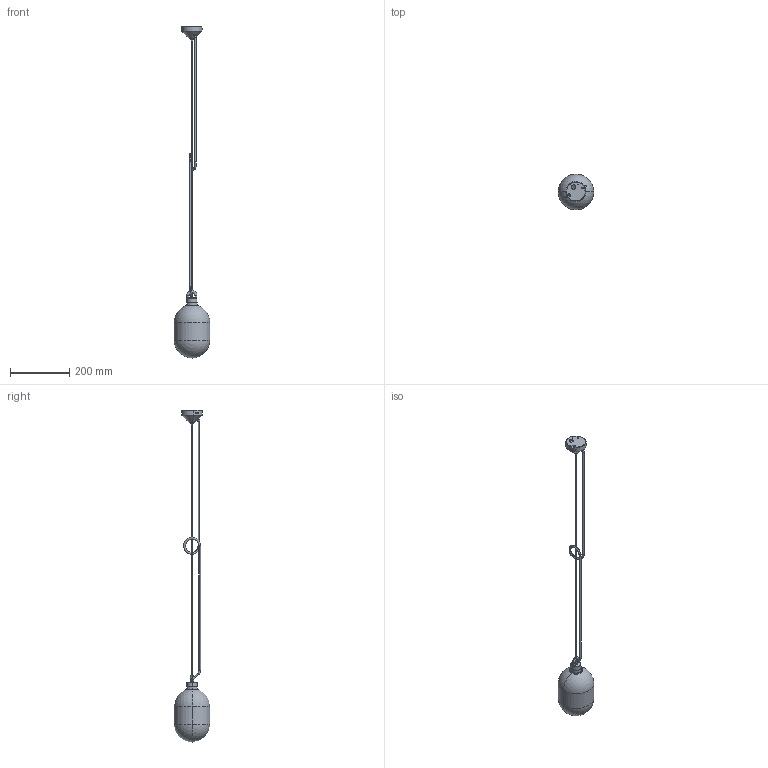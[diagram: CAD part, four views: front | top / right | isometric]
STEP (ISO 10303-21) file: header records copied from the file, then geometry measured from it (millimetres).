
FILE_DESCRIPTION (( 'STEP AP214' ), '1' );
FILE_NAME ('Capsa_3D_GRANDE.STEP', '2026-05-04T13:11:57', ( '' ), ( '' ), 'SwSTEP 2.0', 'SolidWorks 2025', '' );
FILE_SCHEMA (( 'AUTOMOTIVE_DESIGN' ));
Length unit declared in the file: millimetre
Products named in the file (3): CAPSA_Lamp_3D_Senza Onice; Capsa_3D_GRANDE; Capsa_STRUTTURA_2 MODIFICATA
Assembly tree (2 placements, depth 2):
  Capsa_3D_GRANDE
    Capsa_STRUTTURA_2 MODIFICATA
    CAPSA_Lamp_3D_Senza Onice
Bounding box: 120 x 120 x 1119.01 mm (x, y, z)
Volume: 441751.7 mm3; surface area: 183173.6 mm2
Topology: 12 solids, 12 shells, 491 faces, 1307 edges, 852 vertices
Faces by surface type: plane 272, cylinder 169, bspline 32, sphere 8, cone 8, torus 2
Entity records: 19903 total; most frequent: CARTESIAN_POINT 7568, ORIENTED_EDGE 2574, DIRECTION 2457, EDGE_CURVE 1287, VERTEX_POINT 844, AXIS2_PLACEMENT_3D 832, VECTOR 793, LINE 793
